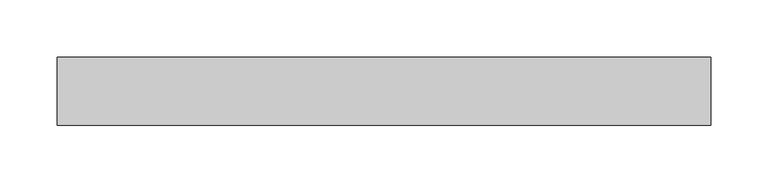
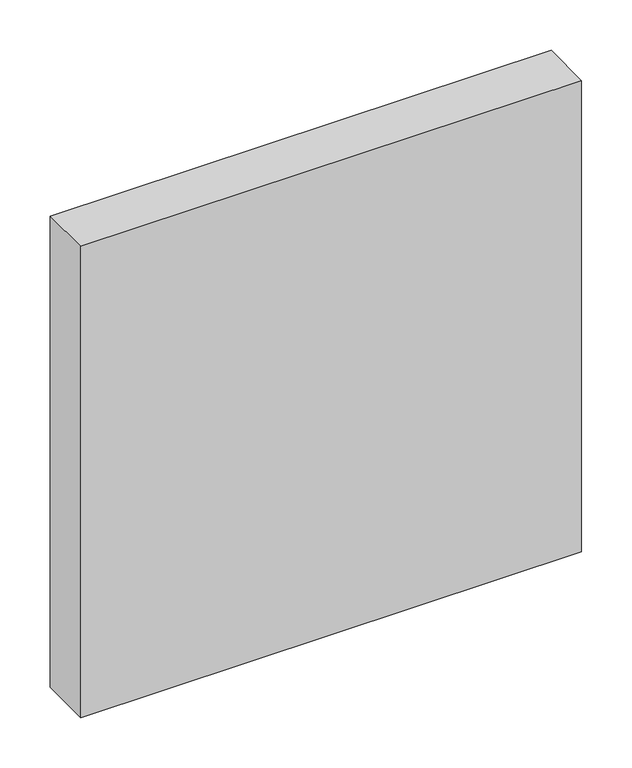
"""IFC4 building model written with IfcOpenShell, lengths in millimetres: plate geometry, Системная панель : Алюкобонд серый."""

import ifcopenshell
import ifcopenshell.guid

model = None  # the IFC model being written
_history = None  # IfcOwnerHistory: only IFC2X3 demands one
_inside = {}  # id of a spatial element -> (the spatial element, [elements in it])
_under = {}  # id of a project, library or spatial element -> (it, [spatial elements below it])
_declared = {}  # id of a project -> (the project, [libraries it declares])
_typed = {}  # id of a type object -> (the type object, [elements of that type])
_made_of = {}  # id of a material, layer set ... -> (it, [elements and type objects made of it])


def new_model(schema):
    """Start an empty IFC model of exactly this schema.

    Asked for "IFC4X3", IfcOpenShell would pick the latest addendum, in which some entities
    have other attributes; the version numbers below select the first issue.
    IFC2X3 requires an IfcOwnerHistory on every rooted entity: one is made here for all.
    """
    global model, _history
    if schema == "IFC4X3":
        model = ifcopenshell.file(schema_version=(4, 3, 0, 0))
    else:
        model = ifcopenshell.file(schema=schema)
    _inside.clear()
    _under.clear()
    _declared.clear()
    _typed.clear()
    _made_of.clear()
    _history = None
    if model.schema == "IFC2X3":
        org = make("IfcOrganization", Name="unknown")
        user = make(
            "IfcPersonAndOrganization",
            ThePerson=make("IfcPerson", FamilyName="unknown"),
            TheOrganization=org,
        )
        app = make(
            "IfcApplication",
            ApplicationDeveloper=org,
            Version="unknown",
            ApplicationFullName="unknown",
            ApplicationIdentifier="unknown",
        )
        _history = make(
            "IfcOwnerHistory",
            OwningUser=user,
            OwningApplication=app,
            ChangeAction="ADDED",
            CreationDate=0,
        )
    return model


def make(cls, **values):
    """One entity of the class cls with the attributes given. An attribute that is None is left unset."""
    return model.create_entity(
        cls, **{name: value for name, value in values.items() if value is not None}
    )


def rooted(cls, **values):
    """An entity with a GlobalId (a new one), such as an element, a storey or a relation."""
    return make(cls, GlobalId=ifcopenshell.guid.new(), OwnerHistory=_history, **values)


def si_unit(unit_type, name, prefix=None):
    """IfcSIUnit, for example si_unit("LENGTHUNIT", "METRE", prefix="MILLI")."""
    return make("IfcSIUnit", UnitType=unit_type, Prefix=prefix, Name=name)


def assignment(units):
    """IfcUnitAssignment: the units of a project."""
    return None if units is None else make("IfcUnitAssignment", Units=units)


def point(xyz):
    """IfcCartesianPoint."""
    return None if xyz is None else make("IfcCartesianPoint", Coordinates=xyz)


def direction(xyz):
    """IfcDirection."""
    return None if xyz is None else make("IfcDirection", DirectionRatios=xyz)


def frame(location, z_axis=None, x_axis=None):
    """IfcAxis2Placement3D, a coordinate frame: its origin and axes. An axis left out is left unset."""
    return make(
        "IfcAxis2Placement3D",
        Location=point(location),
        Axis=direction(z_axis),
        RefDirection=direction(x_axis),
    )


def origin():
    """The frame at (0, 0, 0) with its axes left unset."""
    return frame((0.0, 0.0, 0.0))


def origin_with_axes():
    """The frame at (0, 0, 0) with the z axis (0, 0, 1) and the x axis (1, 0, 0) written out."""
    return frame((0.0, 0.0, 0.0), z_axis=(0.0, 0.0, 1.0), x_axis=(1.0, 0.0, 0.0))


def place(relative_to, where):
    """IfcLocalPlacement: puts the frame where relative to a parent placement (None: the world)."""
    return make(
        "IfcLocalPlacement", PlacementRelTo=relative_to, RelativePlacement=where
    )


def context(
    kind, dimensions, precision=None, world=None, true_north=None, identifier=None
):
    """IfcGeometricRepresentationContext, for example the 3D "Model" context."""
    return make(
        "IfcGeometricRepresentationContext",
        ContextIdentifier=identifier,
        ContextType=kind,
        CoordinateSpaceDimension=dimensions,
        Precision=precision,
        WorldCoordinateSystem=world,
        TrueNorth=true_north,
    )


def project(units=None, contexts=None):
    """IfcProject with its units and contexts."""
    return rooted(
        "IfcProject",
        Name="project",
        RepresentationContexts=contexts,
        UnitsInContext=assignment(units),
    )


def spatial(cls, under=None, at=None, **own):
    """A site, building, storey or space (cls), placed at a placement, below another one or the project."""
    s = rooted(cls, ObjectPlacement=at, **own)
    if under is not None:
        _under.setdefault(under.id(), (under, []))[1].append(s)
    return s


def polyline(points):
    """IfcPolyline through the points."""
    return make("IfcPolyline", Points=[point(p) for p in points])


def outline(outer, holes=None, kind="AREA"):
    """IfcArbitraryClosedProfileDef: a profile drawn as a closed curve; with holes, ...WithVoids."""
    if holes is None:
        return make("IfcArbitraryClosedProfileDef", ProfileType=kind, OuterCurve=outer)
    return make(
        "IfcArbitraryProfileDefWithVoids",
        ProfileType=kind,
        OuterCurve=outer,
        InnerCurves=holes,
    )


def extrude(swept, where, along, depth):
    """IfcExtrudedAreaSolid: the profile swept, set in the frame where, extruded along a direction by depth."""
    return make(
        "IfcExtrudedAreaSolid",
        SweptArea=swept,
        Position=where,
        ExtrudedDirection=direction(along),
        Depth=depth,
    )


def shape(context_of_items, identifier, shape_type, items):
    """IfcShapeRepresentation: the items that make up one representation, for example the "Body"."""
    return make(
        "IfcShapeRepresentation",
        ContextOfItems=context_of_items,
        RepresentationIdentifier=identifier,
        RepresentationType=shape_type,
        Items=items,
    )


def source(mapping_origin, context_of_items, identifier, shape_type, items):
    """IfcRepresentationMap: a shape defined once, which mapped items show again and again."""
    return make(
        "IfcRepresentationMap",
        MappingOrigin=mapping_origin,
        MappedRepresentation=shape(context_of_items, identifier, shape_type, items),
    )


def transform(
    local_origin,
    x_axis=None,
    y_axis=None,
    z_axis=None,
    scale=None,
    scale2=None,
    scale3=None,
    uniform=True,
):
    """IfcCartesianTransformationOperator3D, or its non-uniform kind. x_axis, y_axis, z_axis: its Axis1, 2, 3."""
    if uniform:
        return make(
            "IfcCartesianTransformationOperator3D",
            Axis1=direction(x_axis),
            Axis2=direction(y_axis),
            LocalOrigin=point(local_origin),
            Scale=scale,
            Axis3=direction(z_axis),
        )
    return make(
        "IfcCartesianTransformationOperator3DnonUniform",
        Axis1=direction(x_axis),
        Axis2=direction(y_axis),
        LocalOrigin=point(local_origin),
        Scale=scale,
        Axis3=direction(z_axis),
        Scale2=scale2,
        Scale3=scale3,
    )


def mapped(mapping_source, mapping_target):
    """IfcMappedItem: shows the shape of a source again, moved by a transform."""
    return make(
        "IfcMappedItem", MappingSource=mapping_source, MappingTarget=mapping_target
    )


def made_of(thing, what):
    """Note that an element or type object is made of a material, layer set ...; save() writes the relation."""
    if what is not None:
        _made_of.setdefault(what.id(), (what, []))[1].append(thing)
    return thing


def element(
    cls,
    number,
    at=None,
    inside=None,
    cuts=None,
    type_object=None,
    material=None,
    context=None,
    identifier="Body",
    shape_type=None,
    held_by="IfcProductDefinitionShape",
    body=None,
    shapes=None,
    **own,
):
    """One element of the class cls, such as IfcWall. Its Tag is "e" and its number.

    at: its placement. inside: the storey or other place that contains it. cuts: it is an
    opening in that element (IfcRelVoidsElement). A single representation is given by context,
    identifier, shape_type and body (its items); several are given by shapes. held_by: the class
    of the entity that holds the representations. save() writes the other relations.
    """
    e = rooted(cls, Tag="e%d" % number, ObjectPlacement=at, **own)
    if body is not None:
        shapes = [shape(context, identifier, shape_type, body)]
    if shapes is not None:
        e.Representation = make(held_by, Representations=shapes)
    if inside is not None:
        _inside.setdefault(inside.id(), (inside, []))[1].append(e)
    if cuts is not None:
        rooted(
            "IfcRelVoidsElement", RelatingBuildingElement=cuts, RelatedOpeningElement=e
        )
    if type_object is not None:
        _typed.setdefault(type_object.id(), (type_object, []))[1].append(e)
    return made_of(e, material)


def aggregate(whole, parts):
    """IfcRelAggregates: a whole, such as a stair, and the parts it consists of."""
    return rooted("IfcRelAggregates", RelatingObject=whole, RelatedObjects=parts)


def save(model, path):
    """Write the relations noted so far, then the file.

    IfcRelAggregates (storeys below a building ...), IfcRelContainedInSpatialStructure (elements
    in a storey), IfcRelDefinesByType, IfcRelAssociatesMaterial and IfcRelDeclares: one each for
    every whole, place, type object, material and project.
    """
    for whole, parts in _under.values():
        aggregate(whole, parts)
    for where, things in _inside.values():
        rooted(
            "IfcRelContainedInSpatialStructure",
            RelatedElements=things,
            RelatingStructure=where,
        )
    for kind, things in _typed.values():
        rooted("IfcRelDefinesByType", RelatedObjects=things, RelatingType=kind)
    for what, things in _made_of.values():
        rooted("IfcRelAssociatesMaterial", RelatedObjects=things, RelatingMaterial=what)
    for by, libraries in _declared.values():
        rooted("IfcRelDeclares", RelatingContext=by, RelatedDefinitions=libraries)
    model.write(path)


def plate_7f65fb9d(model_context):
    return source(origin(), model_context, "Body", "SweptSolid", [
        extrude(outline(polyline([(286.7952706, -49.5), (-286.7952706, -49.5), (-286.7952706, 10.5), (286.7952706, 10.5), (286.7952706, -49.5)])), origin_with_axes(), (0.0, 0.0, 1.0), 570.0),
    ])


if __name__ == "__main__":
    model = new_model("IFC4")
    model_context = context("Model", 3, world=origin())
    ifc_project = project(units=[si_unit("LENGTHUNIT", "METRE", prefix="MILLI")], contexts=[model_context])
    site = spatial("IfcSite", under=ifc_project)
    building = spatial("IfcBuilding", under=site)
    placement = place(None, origin())
    plate_shape = plate_7f65fb9d(model_context)
    element("IfcPlate", 1, ObjectType="Системная панель : Алюкобонд серый", at=placement, inside=building, context=model_context, shape_type="MappedRepresentation", body=[
        mapped(plate_shape, transform((0.0, 0.0, 0.0), x_axis=(1.0, 0.0, 0.0), y_axis=(0.0, 1.0, 0.0), z_axis=(0.0, 0.0, 1.0))),
    ])
    save(model, "model.ifc")
